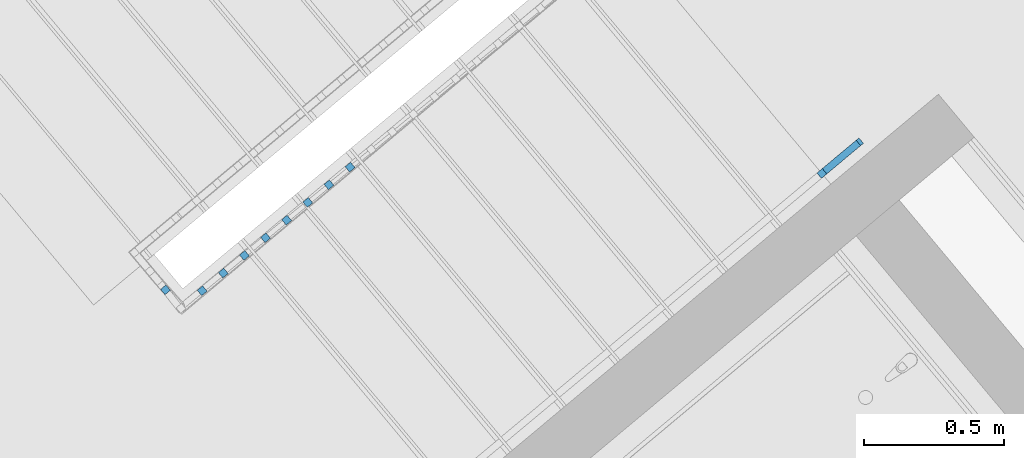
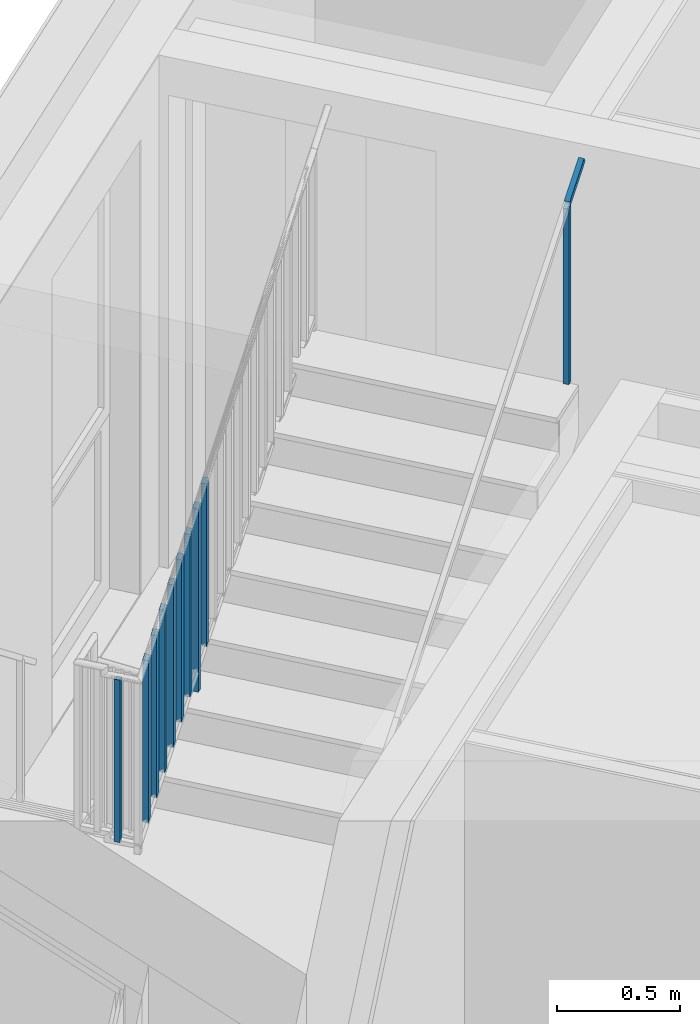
# One storey, part 46 of 61: 11 building element parts, 2 elements without a shape of their own.
"""IFC4 building model written with IfcOpenShell, lengths in metres."""

from ifc_helpers import new_model, entity, si_unit, converted_unit, derived_unit, direction, frame, origin_with_axes, place, context, subcontext, project, spatial, polygons, material, type_object, element, aggregate, save


model = new_model("IFC4")

# Units and contexts
model_context = context("Model", 3, precision=1e-05, world=origin_with_axes(), true_north=direction((0.0, 1.0)))
body_context = subcontext(model_context, "Body", "Model", "MODEL_VIEW")
ifc_project = project(units=[si_unit("LENGTHUNIT", "METRE"), si_unit("AREAUNIT", "SQUARE_METRE"), si_unit("VOLUMEUNIT", "CUBIC_METRE"), converted_unit("PLANEANGLEUNIT", "DEGREE", entity("IfcPlaneAngleMeasure", 0.0174532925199), si_unit("PLANEANGLEUNIT", "RADIAN"), dimensions=[0, 0, 0, 0, 0, 0, 0]), converted_unit("TIMEUNIT", "Year", entity("IfcTimeMeasure", 31556926.0), si_unit("TIMEUNIT", "SECOND"), dimensions=[0, 0, 1, 0, 0, 0, 0]), si_unit("MASSUNIT", "GRAM", prefix="KILO"), si_unit("THERMODYNAMICTEMPERATUREUNIT", "DEGREE_CELSIUS"), si_unit("LUMINOUSINTENSITYUNIT", "LUMEN"), si_unit("ENERGYUNIT", "JOULE", prefix="MEGA"), derived_unit("THERMALCONDUCTANCEUNIT", [(si_unit("POWERUNIT", "WATT"), 1), (si_unit("LENGTHUNIT", "METRE"), -1), (si_unit("THERMODYNAMICTEMPERATUREUNIT", "KELVIN"), -1)]), derived_unit("SPECIFICHEATCAPACITYUNIT", [(si_unit("ENERGYUNIT", "JOULE"), 1), (si_unit("MASSUNIT", "GRAM", prefix="KILO"), -1), (si_unit("THERMODYNAMICTEMPERATUREUNIT", "KELVIN"), -1)]), derived_unit("MASSDENSITYUNIT", [(si_unit("MASSUNIT", "GRAM", prefix="KILO"), 1), (si_unit("VOLUMEUNIT", "CUBIC_METRE"), -1)])], contexts=[model_context])

# Site, building, storey, space
site_placement = place(None, frame((-0.00153261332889, -0.00661245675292, 0.0), z_axis=(0.0, 0.0, 1.0), x_axis=(1.0, 0.0, 0.0)))
site = spatial("IfcSite", under=ifc_project, at=site_placement, Name="Gelände", CompositionType="ELEMENT")
building_placement = place(site_placement, origin_with_axes())
building = spatial("IfcBuilding", under=site, at=building_placement, Name="Gebäude", CompositionType="ELEMENT")
storey_placement = place(building_placement, frame((0.0, 0.0, 5.7), z_axis=(0.0, 0.0, 1.0), x_axis=(1.0, 0.0, 0.0)))
storey = spatial("IfcBuildingStorey", under=building, at=storey_placement, Name="DG1", CompositionType="ELEMENT", Elevation=5.7)
space_placement = place(storey_placement, frame((0.280300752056, 22.6307267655, 0.22), z_axis=(0.0, 0.0, 1.0), x_axis=(-0.641244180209, 0.767336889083, 0.0)))
space = spatial("IfcSpace", under=storey, at=space_placement, CompositionType="ELEMENT", PredefinedType="NOTDEFINED")

# Railing, building element parts
railing_type = type_object("IfcRailingType", Name="Geländerart", PredefinedType="NOTDEFINED")
railing_1_placement = place(space_placement, frame((1.35982515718, -0.251690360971, -0.17), z_axis=(0.0, 0.0, 1.0), x_axis=(-0.641244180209, -0.767336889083, 0.0)))
railing_1 = element("IfcRailing", 1, at=railing_1_placement, inside=space, type_object=railing_type, Name="Geländer - 001", PredefinedType="NOTDEFINED")
ifc_material = material(Name="BEKLEIDUNG")
building_element_part_1_placement = place(railing_1_placement, origin_with_axes())
building_element_part_1 = element("IfcBuildingElementPart", 2, at=building_element_part_1_placement, material=ifc_material, Name="BEKLEIDUNG", PredefinedType="NOTDEFINED", context=body_context, shape_type="Tessellation", body=[
    polygons([(-1.7035806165, -1.60032774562, 1.80989887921), (-1.6843964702, -1.5842975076, 1.80989887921), (-1.6843964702, -1.5842975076, 2.61739887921), (-1.7035806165, -1.60032774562, 2.61739887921), (-1.71961085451, -1.58114359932, 1.80989887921), (-1.70042670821, -1.5651133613, 1.80989887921), (-1.70042670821, -1.5651133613, 2.61739887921), (-1.71961085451, -1.58114359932, 2.61739887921)], [[[1, 2, 3, 4]], [[1, 5, 6, 2]], [[2, 6, 7, 3]], [[4, 3, 7, 8]], [[5, 1, 4, 8]], [[6, 5, 8, 7]]], closed=True),
])
building_element_part_2_placement = place(railing_1_placement, origin_with_axes())
building_element_part_2 = element("IfcBuildingElementPart", 3, at=building_element_part_2_placement, material=ifc_material, Name="BEKLEIDUNG", PredefinedType="NOTDEFINED", context=body_context, shape_type="Tessellation", body=[
    polygons([(-1.55322027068, -1.58760797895, 1.87805222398), (-1.5692505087, -1.56842383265, 1.87805222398), (-1.5692505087, -1.56842383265, 2.68555222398), (-1.55322027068, -1.58760797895, 2.68555222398), (-1.57240441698, -1.60363821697, 1.86270754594), (-1.588434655, -1.58445407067, 1.86270754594), (-1.588434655, -1.58445407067, 2.67020754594), (-1.57240441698, -1.60363821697, 2.67020754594)], [[[1, 2, 3, 4]], [[1, 5, 6, 2]], [[2, 6, 7, 3]], [[4, 3, 7, 8]], [[5, 1, 4, 8]], [[6, 5, 8, 7]]], closed=True),
])
building_element_part_3_placement = place(railing_1_placement, origin_with_axes())
building_element_part_3 = element("IfcBuildingElementPart", 4, at=building_element_part_3_placement, material=ifc_material, Name="BEKLEIDUNG", PredefinedType="NOTDEFINED", context=body_context, shape_type="Tessellation", body=[
    polygons([(-1.4776060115, -1.52442484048, 1.93853322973), (-1.49363624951, -1.50524069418, 1.93853322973), (-1.49363624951, -1.50524069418, 2.74603322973), (-1.4776060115, -1.52442484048, 2.74603322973), (-1.4967901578, -1.54045507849, 1.92318855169), (-1.51282039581, -1.52127093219, 1.92318855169), (-1.51282039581, -1.52127093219, 2.73068855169), (-1.4967901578, -1.54045507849, 2.73068855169)], [[[1, 2, 3, 4]], [[1, 5, 6, 2]], [[2, 6, 7, 3]], [[4, 3, 7, 8]], [[5, 1, 4, 8]], [[6, 5, 8, 7]]], closed=True),
])
building_element_part_4_placement = place(railing_1_placement, origin_with_axes())
building_element_part_4 = element("IfcBuildingElementPart", 5, at=building_element_part_4_placement, material=ifc_material, Name="BEKLEIDUNG", PredefinedType="NOTDEFINED", context=body_context, shape_type="Tessellation", body=[
    polygons([(-1.40199175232, -1.461241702, 1.99901423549), (-1.41802199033, -1.4420575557, 1.99901423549), (-1.41802199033, -1.4420575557, 2.80651423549), (-1.40199175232, -1.461241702, 2.80651423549), (-1.42117589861, -1.47727194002, 1.98366955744), (-1.43720613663, -1.45808779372, 1.98366955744), (-1.43720613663, -1.45808779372, 2.79116955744), (-1.42117589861, -1.47727194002, 2.79116955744)], [[[1, 2, 3, 4]], [[1, 5, 6, 2]], [[2, 6, 7, 3]], [[4, 3, 7, 8]], [[5, 1, 4, 8]], [[6, 5, 8, 7]]], closed=True),
])
building_element_part_5_placement = place(railing_1_placement, origin_with_axes())
building_element_part_5 = element("IfcBuildingElementPart", 6, at=building_element_part_5_placement, material=ifc_material, Name="BEKLEIDUNG", PredefinedType="NOTDEFINED", context=body_context, shape_type="Tessellation", body=[
    polygons([(-1.32637749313, -1.39805856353, 2.05949524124), (-1.34240773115, -1.37887441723, 2.05949524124), (-1.34240773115, -1.37887441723, 2.86699524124), (-1.32637749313, -1.39805856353, 2.86699524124), (-1.34556163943, -1.41408880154, 2.04415056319), (-1.36159187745, -1.39490465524, 2.04415056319), (-1.36159187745, -1.39490465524, 2.85165056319), (-1.34556163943, -1.41408880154, 2.85165056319)], [[[1, 2, 3, 4]], [[1, 5, 6, 2]], [[2, 6, 7, 3]], [[4, 3, 7, 8]], [[5, 1, 4, 8]], [[6, 5, 8, 7]]], closed=True),
])
building_element_part_6_placement = place(railing_1_placement, origin_with_axes())
building_element_part_6 = element("IfcBuildingElementPart", 7, at=building_element_part_6_placement, material=ifc_material, Name="BEKLEIDUNG", PredefinedType="NOTDEFINED", context=body_context, shape_type="Tessellation", body=[
    polygons([(-1.25076323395, -1.33487542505, 2.11997624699), (-1.26679347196, -1.31569127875, 2.11997624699), (-1.26679347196, -1.31569127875, 2.92747624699), (-1.25076323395, -1.33487542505, 2.92747624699), (-1.26994738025, -1.35090566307, 2.10463156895), (-1.28597761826, -1.33172151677, 2.10463156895), (-1.28597761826, -1.33172151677, 2.91213156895), (-1.26994738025, -1.35090566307, 2.91213156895)], [[[1, 2, 3, 4]], [[1, 5, 6, 2]], [[2, 6, 7, 3]], [[4, 3, 7, 8]], [[5, 1, 4, 8]], [[6, 5, 8, 7]]], closed=True),
])
building_element_part_7_placement = place(railing_1_placement, origin_with_axes())
building_element_part_7 = element("IfcBuildingElementPart", 8, at=building_element_part_7_placement, material=ifc_material, Name="BEKLEIDUNG", PredefinedType="NOTDEFINED", context=body_context, shape_type="Tessellation", body=[
    polygons([(-1.17514897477, -1.27169228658, 2.18045725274), (-1.19117921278, -1.25250814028, 2.18045725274), (-1.19117921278, -1.25250814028, 2.98795725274), (-1.17514897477, -1.27169228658, 2.98795725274), (-1.19433312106, -1.28772252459, 2.1651125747), (-1.21036335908, -1.26853837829, 2.1651125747), (-1.21036335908, -1.26853837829, 2.9726125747), (-1.19433312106, -1.28772252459, 2.9726125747)], [[[1, 2, 3, 4]], [[1, 5, 6, 2]], [[2, 6, 7, 3]], [[4, 3, 7, 8]], [[5, 1, 4, 8]], [[6, 5, 8, 7]]], closed=True),
])
building_element_part_8_placement = place(railing_1_placement, origin_with_axes())
building_element_part_8 = element("IfcBuildingElementPart", 9, at=building_element_part_8_placement, material=ifc_material, Name="BEKLEIDUNG", PredefinedType="NOTDEFINED", context=body_context, shape_type="Tessellation", body=[
    polygons([(-1.09953471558, -1.2085091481, 2.12470588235), (-1.1155649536, -1.1893250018, 2.12470588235), (-1.1155649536, -1.1893250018, 3.05093825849), (-1.09953471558, -1.2085091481, 3.05093825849), (-1.11871886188, -1.22453938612, 2.12470588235), (-1.13474909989, -1.20535523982, 2.12470588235), (-1.13474909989, -1.20535523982, 3.03559358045), (-1.11871886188, -1.22453938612, 3.03559358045)], [[[1, 2, 3, 4]], [[1, 5, 6, 2]], [[2, 6, 7, 3]], [[4, 3, 7, 8]], [[5, 1, 4, 8]], [[6, 5, 8, 7]]], closed=True),
])
building_element_part_9_placement = place(railing_1_placement, origin_with_axes())
building_element_part_9 = element("IfcBuildingElementPart", 10, at=building_element_part_9_placement, material=ifc_material, Name="BEKLEIDUNG", PredefinedType="NOTDEFINED", context=body_context, shape_type="Tessellation", body=[
    polygons([(-1.0239204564, -1.14532600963, 2.30141926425), (-1.03995069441, -1.12614186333, 2.30141926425), (-1.03995069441, -1.12614186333, 3.10891926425), (-1.0239204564, -1.14532600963, 3.10891926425), (-1.0431046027, -1.16135624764, 2.2860745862), (-1.05913484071, -1.14217210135, 2.2860745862), (-1.05913484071, -1.14217210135, 3.0935745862), (-1.0431046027, -1.16135624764, 3.0935745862)], [[[1, 2, 3, 4]], [[1, 5, 6, 2]], [[2, 6, 7, 3]], [[4, 3, 7, 8]], [[5, 1, 4, 8]], [[6, 5, 8, 7]]], closed=True),
])
aggregate(railing_1, [building_element_part_1, building_element_part_2, building_element_part_3, building_element_part_4, building_element_part_5, building_element_part_6, building_element_part_7, building_element_part_8, building_element_part_9])

railing_2_placement = place(space_placement, frame((9.09464852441e-05, 2.01352288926, 1.60058823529), z_axis=(0.0, 0.0, 1.0), x_axis=(-0.641244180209, -0.767336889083, 0.0)))
railing_2 = element("IfcRailing", 11, at=railing_2_placement, inside=space, type_object=railing_type, Name="Geländer - 002", PredefinedType="NOTDEFINED")
building_element_part_10_placement = place(railing_2_placement, origin_with_axes())
building_element_part_10 = element("IfcBuildingElementPart", 12, at=building_element_part_10_placement, material=ifc_material, Name="BEKLEIDUNG", PredefinedType="NOTDEFINED", context=body_context, shape_type="Tessellation", body=[
    polygons([(1.53065542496, 1.32788138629, 1.23941176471), (1.51462518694, 1.34706553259, 1.23941176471), (1.51462518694, 1.34706553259, 2.12710606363), (1.53065542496, 1.32788138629, 2.12710606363), (1.51147127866, 1.31185114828, 1.23941176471), (1.49544104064, 1.33103529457, 1.23941176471), (1.49544104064, 1.33103529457, 2.11171746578), (1.51147127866, 1.31185114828, 2.11171746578)], [[[1, 2, 3, 4]], [[1, 5, 6, 2]], [[2, 6, 7, 3]], [[4, 3, 7, 8]], [[5, 1, 4, 8]], [[6, 5, 8, 7]]], closed=True),
])
building_element_part_11_placement = place(railing_2_placement, origin_with_axes())
building_element_part_11 = element("IfcBuildingElementPart", 13, at=building_element_part_11_placement, material=ifc_material, Name="BEKLEIDUNG", PredefinedType="NOTDEFINED", context=body_context, shape_type="Tessellation", body=[
    polygons([(1.52106335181, 1.31986626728, 2.13941176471), (1.53111960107, 1.32826925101, 2.11812182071), (1.66181700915, 1.43747976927, 2.22296098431), (1.65176075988, 1.42907678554, 2.24425092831), (1.50503311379, 1.33905041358, 2.13941176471), (1.51508936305, 1.34745339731, 2.11812182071), (1.64578677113, 1.45666391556, 2.22296098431), (1.63573052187, 1.44826093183, 2.24425092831)], [[[1, 2, 3, 4]], [[1, 5, 6, 2]], [[2, 6, 7, 3]], [[4, 3, 7, 8]], [[5, 1, 4, 8]], [[6, 5, 8, 7]]], closed=True),
])
aggregate(railing_2, [building_element_part_10, building_element_part_11])

save(model, "model.ifc")
